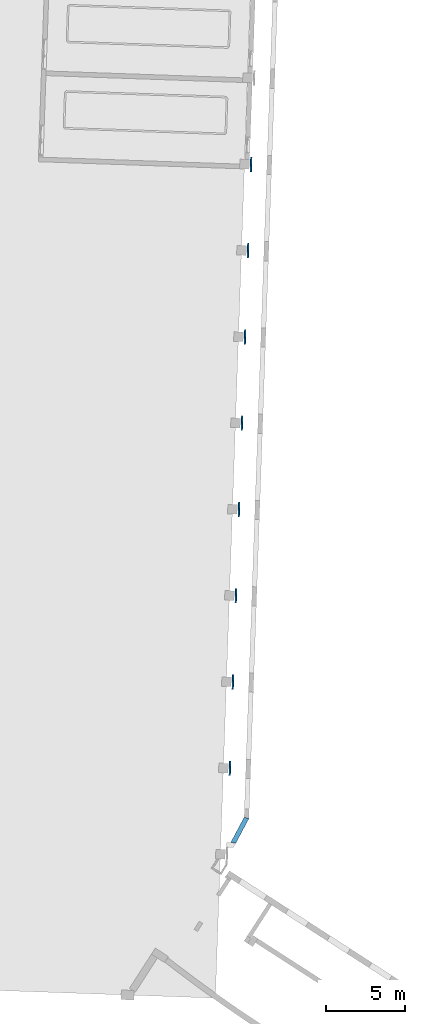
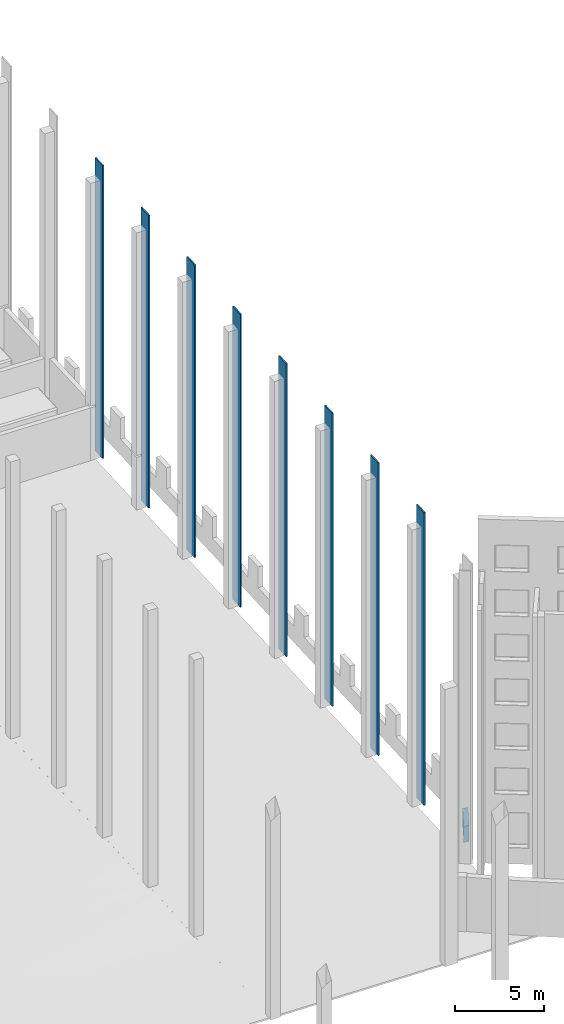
# One storey, part 30 of 44: 9 walls.
"""IFC2X3 building model written with IfcOpenShell, lengths in feet."""

from ifc_helpers import new_model, entity, si_unit, converted_unit, derived_unit, direction, frame, frame_2d, origin, place, context, subcontext, project, spatial, polyline, rectangle, outline, extrude, material, layer, layer_set, layer_usage, type_object, element, save


model = new_model("IFC2X3")

# Units and contexts
model_context = context("Model", 3, precision=0.0001, world=origin(), true_north=direction((0.999390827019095, 0.0348994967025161)))
body_context = subcontext(model_context, "Body", "Model", "MODEL_VIEW")
ifc_project = project(units=[converted_unit("LENGTHUNIT", "FOOT", entity("IfcRatioMeasure", 0.3048), si_unit("LENGTHUNIT", "METRE"), dimensions=[1, 0, 0, 0, 0, 0, 0]), converted_unit("AREAUNIT", "SQUARE FOOT", entity("IfcRatioMeasure", 0.09290304), si_unit("AREAUNIT", "SQUARE_METRE"), dimensions=[2, 0, 0, 0, 0, 0, 0]), converted_unit("VOLUMEUNIT", "CUBIC FOOT", entity("IfcRatioMeasure", 0.028316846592), si_unit("VOLUMEUNIT", "CUBIC_METRE"), dimensions=[3, 0, 0, 0, 0, 0, 0]), converted_unit("PLANEANGLEUNIT", "DEGREE", entity("IfcRatioMeasure", 0.0174532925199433), si_unit("PLANEANGLEUNIT", "RADIAN"), dimensions=[0, 0, 0, 0, 0, 0, 0]), si_unit("MASSUNIT", "GRAM", prefix="KILO"), si_unit("TIMEUNIT", "SECOND"), si_unit("FREQUENCYUNIT", "HERTZ"), si_unit("THERMODYNAMICTEMPERATUREUNIT", "DEGREE_CELSIUS"), derived_unit("THERMALTRANSMITTANCEUNIT", [(si_unit("MASSUNIT", "GRAM", prefix="KILO"), 1), (si_unit("THERMODYNAMICTEMPERATUREUNIT", "KELVIN"), -1), (si_unit("TIMEUNIT", "SECOND"), -3)]), derived_unit("VOLUMETRICFLOWRATEUNIT", [(si_unit("LENGTHUNIT", "METRE"), 3), (si_unit("TIMEUNIT", "SECOND"), -1)]), si_unit("ELECTRICCURRENTUNIT", "AMPERE"), si_unit("ELECTRICVOLTAGEUNIT", "VOLT"), si_unit("POWERUNIT", "WATT"), si_unit("FORCEUNIT", "NEWTON"), si_unit("ILLUMINANCEUNIT", "LUX"), si_unit("LUMINOUSFLUXUNIT", "LUMEN"), si_unit("LUMINOUSINTENSITYUNIT", "CANDELA"), derived_unit("USERDEFINED", [(si_unit("MASSUNIT", "GRAM", prefix="KILO"), -1), (si_unit("LENGTHUNIT", "METRE"), -2), (si_unit("TIMEUNIT", "SECOND"), 3), (si_unit("LUMINOUSFLUXUNIT", "LUMEN"), 1)]), derived_unit("LINEARVELOCITYUNIT", [(si_unit("LENGTHUNIT", "METRE"), 1), (si_unit("TIMEUNIT", "SECOND"), -1)]), si_unit("PRESSUREUNIT", "PASCAL"), derived_unit("USERDEFINED", [(si_unit("LENGTHUNIT", "METRE"), -2), (si_unit("MASSUNIT", "GRAM", prefix="KILO"), 1), (si_unit("TIMEUNIT", "SECOND"), -2)])], contexts=[model_context])

# Site, building, storey
site_placement = place(None, frame((892.518771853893, 322.38689265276, 0.00393700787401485), z_axis=(0.0, 0.0, 1.0), x_axis=(0.0348994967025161, 0.999390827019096, 0.0)))
site = spatial("IfcSite", under=ifc_project, at=site_placement, Name="Default", CompositionType="ELEMENT")
building_placement = place(site_placement, origin())
building = spatial("IfcBuilding", under=site, at=building_placement, CompositionType="ELEMENT")
storey_placement = place(building_placement, frame((0.0, 0.0, 544.75)))
storey = spatial("IfcBuildingStorey", under=building, at=storey_placement, Name="Exist Garage - Ground Level", CompositionType="ELEMENT", Elevation=544.75)

# Walls
ifc_material_1 = material(Name="Masonry - Brick")
ifc_layer_1 = layer(ifc_material_1, 0.302083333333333)
ifc_layer_set_1 = layer_set([ifc_layer_1], Name="Basic Wall:(Existing) Exterior - Brick Veneer 3 5/8\"")
ifc_layer_usage_1 = layer_usage(ifc_layer_set_1, "AXIS2", "POSITIVE", -0.151041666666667)
wall_type_1 = type_object("IfcWallType", Name="Basic Wall:(Existing) Exterior - Brick Veneer 3 5/8\"", PredefinedType="STANDARD", material=ifc_layer_set_1)
wall_1_placement = place(storey_placement, frame((2.42725423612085, 235.41499514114, 0.0)))
element("IfcWallStandardCase", 1, at=wall_1_placement, inside=storey, type_object=wall_type_1, material=ifc_layer_usage_1, Name="Basic Wall:(Existing) Exterior - Brick Veneer 3 5/8\"", ObjectType="Basic Wall:(Existing) Exterior - Brick Veneer 3 5/8\"", context=body_context, shape_type="SweptSolid", body=[
    extrude(rectangle(XDim=3.00000000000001, YDim=0.302083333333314, at=frame_2d((1.50000000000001, 0.0), x_axis=(-1.0, 0.0))), origin(), (0.0, 0.0, 1.0), 65.8125),
])
ifc_layer_usage_2 = layer_usage(ifc_layer_set_1, "AXIS2", "POSITIVE", -0.151041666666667)
wall_2_placement = place(storey_placement, frame((-15.5727457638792, 235.41499514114, 0.0)))
element("IfcWallStandardCase", 2, at=wall_2_placement, inside=storey, type_object=wall_type_1, material=ifc_layer_usage_2, Name="Basic Wall:(Existing) Exterior - Brick Veneer 3 5/8\"", ObjectType="Basic Wall:(Existing) Exterior - Brick Veneer 3 5/8\"", context=body_context, shape_type="SweptSolid", body=[
    extrude(rectangle(XDim=3.00000000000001, YDim=0.302083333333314, at=frame_2d((1.50000000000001, 0.0), x_axis=(-1.0, 0.0))), origin(), (0.0, 0.0, 1.0), 65.8125),
])
ifc_layer_usage_3 = layer_usage(ifc_layer_set_1, "AXIS2", "POSITIVE", -0.151041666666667)
wall_3_placement = place(storey_placement, frame((-33.5727457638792, 235.41499514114, 0.0)))
element("IfcWallStandardCase", 3, at=wall_3_placement, inside=storey, type_object=wall_type_1, material=ifc_layer_usage_3, Name="Basic Wall:(Existing) Exterior - Brick Veneer 3 5/8\"", ObjectType="Basic Wall:(Existing) Exterior - Brick Veneer 3 5/8\"", context=body_context, shape_type="SweptSolid", body=[
    extrude(rectangle(XDim=3.00000000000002, YDim=0.302083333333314, at=frame_2d((1.50000000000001, 0.0), x_axis=(-1.0, 0.0))), origin(), (0.0, 0.0, 1.0), 65.8125),
])
ifc_layer_usage_4 = layer_usage(ifc_layer_set_1, "AXIS2", "POSITIVE", -0.151041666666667)
wall_4_placement = place(storey_placement, frame((-51.5727457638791, 235.41499514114, 0.0)))
element("IfcWallStandardCase", 4, at=wall_4_placement, inside=storey, type_object=wall_type_1, material=ifc_layer_usage_4, Name="Basic Wall:(Existing) Exterior - Brick Veneer 3 5/8\"", ObjectType="Basic Wall:(Existing) Exterior - Brick Veneer 3 5/8\"", context=body_context, shape_type="SweptSolid", body=[
    extrude(rectangle(XDim=3.00000000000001, YDim=0.302083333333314, at=frame_2d((1.50000000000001, 0.0), x_axis=(-1.0, 0.0))), origin(), (0.0, 0.0, 1.0), 65.8125),
])
ifc_layer_usage_5 = layer_usage(ifc_layer_set_1, "AXIS2", "POSITIVE", -0.151041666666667)
wall_5_placement = place(storey_placement, frame((-69.5727457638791, 235.41499514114, 0.0)))
element("IfcWallStandardCase", 5, at=wall_5_placement, inside=storey, type_object=wall_type_1, material=ifc_layer_usage_5, Name="Basic Wall:(Existing) Exterior - Brick Veneer 3 5/8\"", ObjectType="Basic Wall:(Existing) Exterior - Brick Veneer 3 5/8\"", context=body_context, shape_type="SweptSolid", body=[
    extrude(rectangle(XDim=3.00000000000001, YDim=0.302083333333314, at=frame_2d((1.50000000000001, 0.0), x_axis=(-1.0, 0.0))), origin(), (0.0, 0.0, 1.0), 65.8125),
])
ifc_layer_usage_6 = layer_usage(ifc_layer_set_1, "AXIS2", "POSITIVE", -0.151041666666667)
wall_6_placement = place(storey_placement, frame((-87.5727457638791, 235.41499514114, 0.0)))
element("IfcWallStandardCase", 6, at=wall_6_placement, inside=storey, type_object=wall_type_1, material=ifc_layer_usage_6, Name="Basic Wall:(Existing) Exterior - Brick Veneer 3 5/8\"", ObjectType="Basic Wall:(Existing) Exterior - Brick Veneer 3 5/8\"", context=body_context, shape_type="SweptSolid", body=[
    extrude(rectangle(XDim=3.00000000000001, YDim=0.302083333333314, at=frame_2d((1.50000000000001, 0.0), x_axis=(-1.0, 0.0))), origin(), (0.0, 0.0, 1.0), 65.8125),
])
ifc_layer_usage_7 = layer_usage(ifc_layer_set_1, "AXIS2", "POSITIVE", -0.151041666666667)
wall_7_placement = place(storey_placement, frame((-105.572745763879, 235.41499514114, 0.0)))
element("IfcWallStandardCase", 7, at=wall_7_placement, inside=storey, type_object=wall_type_1, material=ifc_layer_usage_7, Name="Basic Wall:(Existing) Exterior - Brick Veneer 3 5/8\"", ObjectType="Basic Wall:(Existing) Exterior - Brick Veneer 3 5/8\"", context=body_context, shape_type="SweptSolid", body=[
    extrude(rectangle(XDim=3.00000000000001, YDim=0.302083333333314, at=frame_2d((1.50000000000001, 0.0), x_axis=(-1.0, 0.0))), origin(), (0.0, 0.0, 1.0), 65.8125),
])
ifc_layer_usage_8 = layer_usage(ifc_layer_set_1, "AXIS2", "POSITIVE", -0.151041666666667)
wall_8_placement = place(storey_placement, frame((-123.572745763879, 235.41499514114, 0.0)))
element("IfcWallStandardCase", 8, at=wall_8_placement, inside=storey, type_object=wall_type_1, material=ifc_layer_usage_8, Name="Basic Wall:(Existing) Exterior - Brick Veneer 3 5/8\"", ObjectType="Basic Wall:(Existing) Exterior - Brick Veneer 3 5/8\"", context=body_context, shape_type="SweptSolid", body=[
    extrude(rectangle(XDim=3.00000000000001, YDim=0.302083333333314, at=frame_2d((1.50000000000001, 0.0), x_axis=(-1.0, 0.0))), origin(), (0.0, 0.0, 1.0), 65.8125),
])
ifc_layer_2 = layer(ifc_material_1, 0.302083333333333)
ifc_material_2 = material(Name="Insulation / Thermal Barriers - Rigid insulation")
ifc_layer_3 = layer(ifc_material_2, 0.0625)
ifc_material_3 = material(Name="Masonry - Concrete Masonry Units")
ifc_layer_4 = layer(ifc_material_3, 0.635416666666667)
ifc_layer_set_2 = layer_set([ifc_layer_2, ifc_layer_3, ifc_layer_4], Name="Basic Wall:(existing) Exterior - Brick on CMU - 1'-0\"")
ifc_layer_usage_9 = layer_usage(ifc_layer_set_2, "AXIS2", "POSITIVE", -0.5)
wall_type_2 = type_object("IfcWallType", Name="Basic Wall:(existing) Exterior - Brick on CMU - 1'-0\"", PredefinedType="STANDARD", material=ifc_layer_set_2)
wall_9_placement = place(storey_placement, frame((-137.791478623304, 234.273239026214, 0.0), z_axis=(0.0, 0.0, 1.0), x_axis=(0.899235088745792, -0.437465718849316, 0.0)))
element("IfcWallStandardCase", 9, at=wall_9_placement, inside=storey, type_object=wall_type_2, material=ifc_layer_usage_9, Name="Basic Wall:(existing) Exterior - Brick on CMU - 1'-0\"", ObjectType="Basic Wall:(existing) Exterior - Brick on CMU - 1'-0\"", context=body_context, shape_type="SweptSolid", body=[
    extrude(outline(polyline([(6.2321104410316, -0.499999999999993), (6.00177259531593, 0.500000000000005), (0.0, 0.499999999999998), (0.486486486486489, -0.5), (6.2321104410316, -0.499999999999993)])), origin(), (0.0, 0.0, 1.0), 3.580078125),
])

save(model, "model.ifc")
